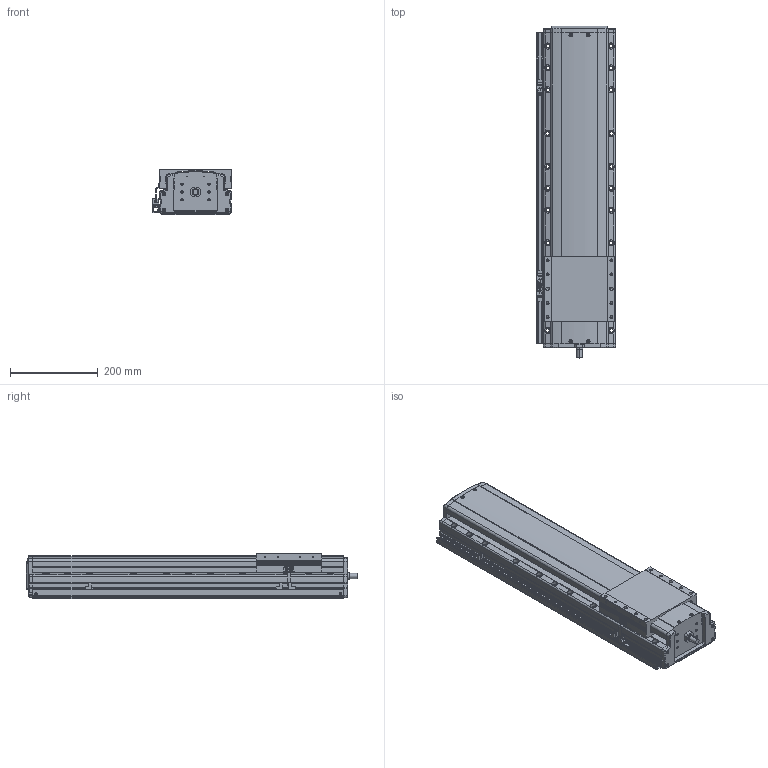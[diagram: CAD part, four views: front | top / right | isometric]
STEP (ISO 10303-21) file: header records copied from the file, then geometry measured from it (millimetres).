
FILE_DESCRIPTION(('STEP AP214'),'1');
FILE_NAME('Z:/Web/3D/PSA165/STP/PSA165-450 (3D)/PSA165ㅁㅁ-450+3SL.stp','2014-06-23T11:16:07',(' '),(' '),'Spatial InterOp 3D',' ',' ');
FILE_SCHEMA(('automotive_design'));
Length unit declared in the file: millimetre
Products named in the file (36): 스크루 : Round - M4.0 x 12.0; RRCV-PA160; BASE; 스크루 : Round - M4.0 x 10.0; RN15; Screw 20; SLIDE; FRCV; M3.0 x 6.0; SRL-16x17-360L; SGD-SAN150; EE-SX674; SBK-SX674-352; 스크루 : Round - M3.0 x 6.0; BHCS M4.0 x 10.0
Bounding box: 181 x 758.8 x 104 mm (x, y, z)
Volume: 10214217.8 mm3; surface area: 775082.3 mm2
Topology: 36 solids, 36 shells, 2392 faces, 6433 edges, 4141 vertices
Faces by surface type: plane 1399, cylinder 707, cone 193, sphere 52, bspline 25, torus 16
Entity records: 97302 total; most frequent: CARTESIAN_POINT 16920, DIRECTION 12733, ORIENTED_EDGE 12614, EDGE_CURVE 6307, LINE 4317, VECTOR 4317, AXIS2_PLACEMENT_3D 4208, VERTEX_POINT 4141
